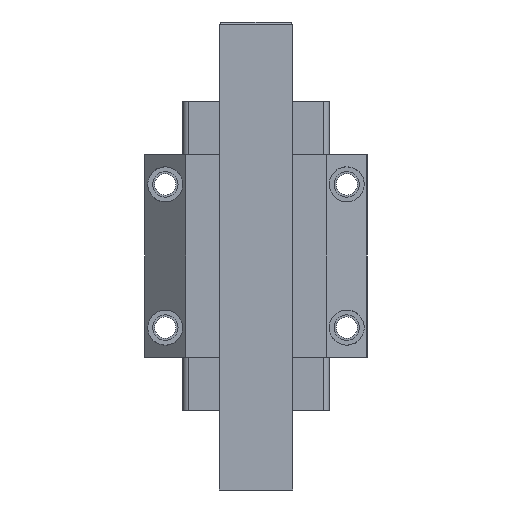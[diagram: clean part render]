
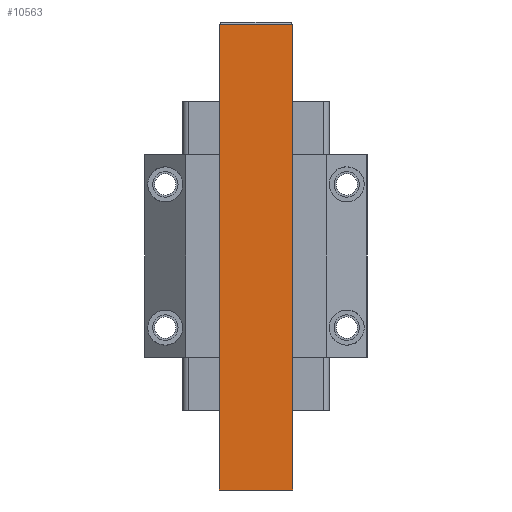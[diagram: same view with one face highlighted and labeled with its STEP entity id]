
A CAD part, front view. The second image highlights one B-rep face of the part: STEP entity #10563.
In plain terms, the highlighted planar face has unit normal (0, -1, 0).
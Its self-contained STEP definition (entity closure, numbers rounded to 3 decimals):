
#9900=DIRECTION('',(1.,0.,0.));
#9901=VECTOR('',#9900,23.);
#9902=CARTESIAN_POINT('',(-11.5,-14.6,-73.5));
#9903=LINE('',#9902,#9901);
#10024=DIRECTION('',(0.,0.,1.));
#10025=VECTOR('',#10024,146.134);
#10026=CARTESIAN_POINT('',(11.5,-14.6,-73.5));
#10027=LINE('',#10026,#10025);
#10028=DIRECTION('',(1.,0.,0.));
#10029=VECTOR('',#10028,23.);
#10030=CARTESIAN_POINT('',(-11.5,-14.6,72.634));
#10031=LINE('',#10030,#10029);
#10032=DIRECTION('',(0.,0.,1.));
#10033=VECTOR('',#10032,146.134);
#10034=CARTESIAN_POINT('',(-11.5,-14.6,-73.5));
#10035=LINE('',#10034,#10033);
#10216=CARTESIAN_POINT('',(11.5,-14.6,72.634));
#10218=VERTEX_POINT('',#10216);
#10220=CARTESIAN_POINT('',(-11.5,-14.6,72.634));
#10222=VERTEX_POINT('',#10220);
#10264=CARTESIAN_POINT('',(-11.5,-14.6,-73.5));
#10265=VERTEX_POINT('',#10264);
#10266=CARTESIAN_POINT('',(11.5,-14.6,-73.5));
#10267=VERTEX_POINT('',#10266);
#10550=CARTESIAN_POINT('',(-11.5,-14.6,-73.5));
#10551=DIRECTION('',(0.,-1.,0.));
#10552=DIRECTION('',(1.,0.,0.));
#10553=AXIS2_PLACEMENT_3D('',#10550,#10551,#10552);
#10554=PLANE('',#10553);
#10556=ORIENTED_EDGE('',*,*,#10555,.T.);
#10557=ORIENTED_EDGE('',*,*,#10545,.F.);
#10558=ORIENTED_EDGE('',*,*,#10305,.F.);
#10560=ORIENTED_EDGE('',*,*,#10559,.T.);
#10561=EDGE_LOOP('',(#10556,#10557,#10558,#10560));
#10562=FACE_OUTER_BOUND('',#10561,.F.);
#10305=EDGE_CURVE('',#10265,#10267,#9903,.T.);
#10545=EDGE_CURVE('',#10267,#10218,#10027,.T.);
#10555=EDGE_CURVE('',#10222,#10218,#10031,.T.);
#10559=EDGE_CURVE('',#10265,#10222,#10035,.T.);
#10563=ADVANCED_FACE('',(#10562),#10554,.T.);
